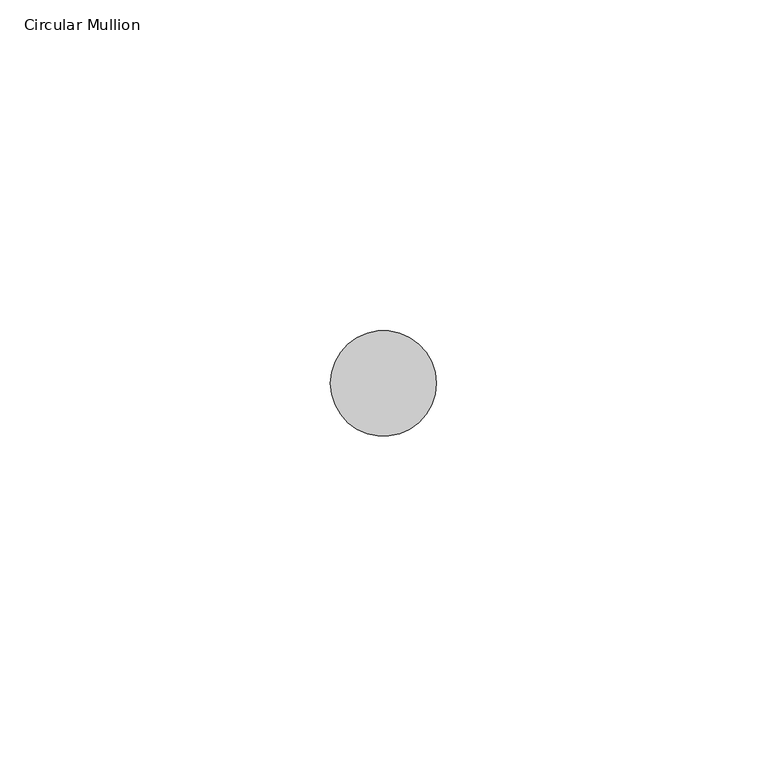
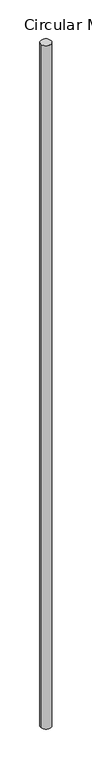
"""IFC4 building model written with IfcOpenShell, lengths in millimetres: member geometry, Circular Mullion : ARQ_HERR_16mm."""

from ifc_helpers import new_model, si_unit, point, frame, origin, origin_2d, place, context, project, spatial, circle_curve, trimmed, segment, composite_curve, outline, extrude, source, transform, mapped, element, save


def circular_mullion_3fe6ea7b(model_context):
    return source(origin(), model_context, "Body", "SweptSolid", [
        extrude(outline(composite_curve([segment(trimmed(circle_curve(origin_2d(), 8.0), [point((8.0, 0.0))], [point((-8.0, 0.0))], False, "CARTESIAN"), True, "CONTINUOUS"), segment(trimmed(circle_curve(origin_2d(), 8.0), [point((-8.0, 0.0))], [point((8.0, 0.0))], False, "CARTESIAN"), True, "CONTINUOUS")], self_intersect=False)), frame((0.0, 0.0, -1108.5219325), z_axis=(0.0, 0.0, 1.0), x_axis=(1.0, 0.0, 0.0)), (0.0, 0.0, 1.0), 1108.5219325),
    ])


if __name__ == "__main__":
    model = new_model("IFC4")
    model_context = context("Model", 3, world=origin())
    ifc_project = project(units=[si_unit("LENGTHUNIT", "METRE", prefix="MILLI")], contexts=[model_context])
    site = spatial("IfcSite", under=ifc_project)
    building = spatial("IfcBuilding", under=site)
    placement = place(None, origin())
    circular_mullion_shape = circular_mullion_3fe6ea7b(model_context)
    element("IfcMember", 1, ObjectType="Circular Mullion : ARQ_HERR_16mm", at=placement, inside=building, context=model_context, shape_type="MappedRepresentation", body=[
        mapped(circular_mullion_shape, transform((0.0, 0.0, 0.0), x_axis=(1.0, 0.0, 0.0), y_axis=(0.0, 1.0, 0.0), z_axis=(0.0, 0.0, 1.0))),
    ])
    save(model, "model.ifc")
